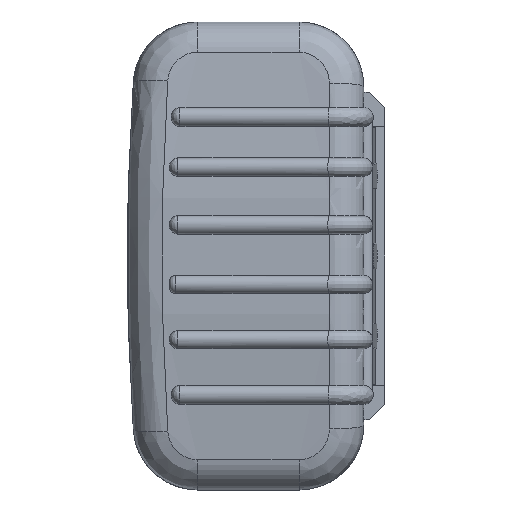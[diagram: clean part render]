
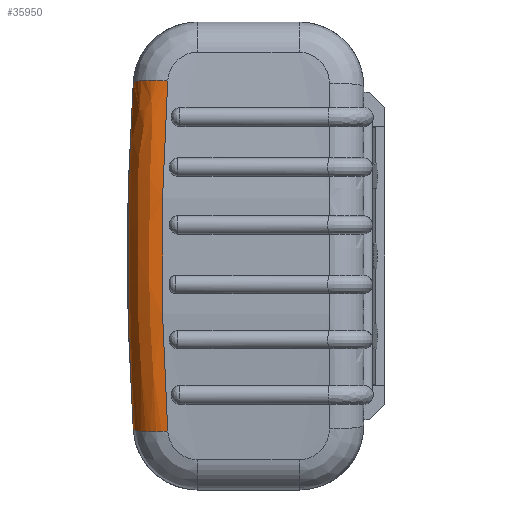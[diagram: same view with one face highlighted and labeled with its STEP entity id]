
A CAD part, left-side view. The second image highlights one B-rep face of the part: STEP entity #35950.
In plain terms, the highlighted free-form (B-spline) face has degree [3, 2] with [6, 3] control points.
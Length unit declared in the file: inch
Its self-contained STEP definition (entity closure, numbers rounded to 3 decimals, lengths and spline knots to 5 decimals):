
#247 = CARTESIAN_POINT ( 'NONE',  ( 3.28221, 2.17422, 0. ) ) ;
#1144 = CARTESIAN_POINT ( 'NONE',  ( 3.54135, 1.82418, -1.06426 ) ) ;
#3175 = CARTESIAN_POINT ( 'NONE',  ( 3.56955, 2.15656, -0.53916 ) ) ;
#3738 = CIRCLE ( 'NONE', #29962, 0.31496 ) ;
#3822 = B_SPLINE_CURVE_WITH_KNOTS ( 'NONE', 3,
 ( #3991, #25898, #247, #29608, #7671 ),
 .UNSPECIFIED., .F., .F.,
 ( 4, 1, 4 ),
 ( 0., 0.04023, 0.08047 ),
 .UNSPECIFIED. ) ;
#3991 = CARTESIAN_POINT ( 'NONE',  ( 3.17128, 2.10346, 1.584 ) ) ;
#6865 = CARTESIAN_POINT ( 'NONE',  ( 3.25459, 2.15656, 0.528 ) ) ;
#7671 = CARTESIAN_POINT ( 'NONE',  ( 3.17128, 2.10346, -1.584 ) ) ;
#7847 = ORIENTED_EDGE ( 'NONE', *, *, #23934, .F. ) ;
#10544 = VERTEX_POINT ( 'NONE', #43159 ) ;
#10554 = CARTESIAN_POINT ( 'NONE',  ( 3.56955, 1.8416, 0.53213 ) ) ;
#12248 = CARTESIAN_POINT ( 'NONE',  ( 3.54135, 1.82418, 1.06426 ) ) ;
#12941 = CARTESIAN_POINT ( 'NONE',  ( 3.17128, 2.10346, -1.584 ) ) ;
#13704 = AXIS2_PLACEMENT_3D ( 'NONE', #16033, #41592, #19704 ) ;
#14056 = CARTESIAN_POINT ( 'NONE',  ( 3.48224, 2.10124, -1.6171 ) ) ;
#14212 = CARTESIAN_POINT ( 'NONE',  ( 3.54073, 2.13823, 1.07705 ) ) ;
#16033 = CARTESIAN_POINT ( 'NONE',  ( 3.17128, 1.78921, 1.56291 ) ) ;
#17032 = ORIENTED_EDGE ( 'NONE', *, *, #17905, .F. ) ;
#17710 = CARTESIAN_POINT ( 'NONE',  ( 3.48445, 1.78921, -1.59639 ) ) ;
#17851 = CARTESIAN_POINT ( 'NONE',  ( 3.17128, 2.10346, 1.584 ) ) ;
#17905 = EDGE_CURVE ( 'NONE', #10544, #30907, #26153, .T. ) ;
#18063 = CARTESIAN_POINT ( 'NONE',  ( 3.17128, 1.78921, -1.56291 ) ) ;
#19704 = DIRECTION ( 'NONE',  ( 0.994, 0., 0.106 ) ) ;
#21415 = CARTESIAN_POINT ( 'NONE',  ( 3.54073, 2.13823, -1.07705 ) ) ;
#21563 = CARTESIAN_POINT ( 'NONE',  ( 3.48445, 1.78921, 1.59639 ) ) ;
#21771 = DIRECTION ( 'NONE',  ( 0.994, 0., -0.106 ) ) ;
#22305 = CARTESIAN_POINT ( 'NONE',  ( 3.17128, 2.10346, 1.584 ) ) ;
#23934 = EDGE_CURVE ( 'NONE', #30907, #24029, #3822, .T. ) ;
#24029 = VERTEX_POINT ( 'NONE', #12941 ) ;
#24931 = CARTESIAN_POINT ( 'NONE',  ( 3.17128, 2.10346, -1.584 ) ) ;
#25099 = CARTESIAN_POINT ( 'NONE',  ( 3.25459, 2.15656, -0.528 ) ) ;
#25898 = CARTESIAN_POINT ( 'NONE',  ( 3.22698, 2.1389, 1.056 ) ) ;
#26153 = CIRCLE ( 'NONE', #13704, 0.31496 ) ;
#28782 = CARTESIAN_POINT ( 'NONE',  ( 3.56955, 1.8416, -0.53213 ) ) ;
#29608 = CARTESIAN_POINT ( 'NONE',  ( 3.22698, 2.1389, -1.056 ) ) ;
#29962 = AXIS2_PLACEMENT_3D ( 'NONE', #18063, #43612, #21771 ) ;
#30507 = CARTESIAN_POINT ( 'NONE',  ( 3.48445, 1.78921, -1.59639 ) ) ;
#30907 = VERTEX_POINT ( 'NONE', #22305 ) ;
#31788 = ORIENTED_EDGE ( 'NONE', *, *, #35378, .T. ) ;
#32490 = CARTESIAN_POINT ( 'NONE',  ( 3.56955, 2.15656, 0.53916 ) ) ;
#32707 = EDGE_LOOP ( 'NONE', ( #31788, #7847, #17032, #37219 ) ) ;
#33782 = EDGE_CURVE ( 'NONE', #33947, #10544, #42450, .T. ) ;
#33947 = VERTEX_POINT ( 'NONE', #35083 ) ;
#34169 = CARTESIAN_POINT ( 'NONE',  ( 3.59776, 1.85903, 0. ) ) ;
#35083 = CARTESIAN_POINT ( 'NONE',  ( 3.48445, 1.78921, -1.59639 ) ) ;
#35378 = EDGE_CURVE ( 'NONE', #33947, #24029, #3738, .T. ) ;
#35950 = ADVANCED_FACE ( 'NONE', ( #36834 ), #45321, .T. ) ;
#36095 = CARTESIAN_POINT ( 'NONE',  ( 3.22698, 2.1389, 1.056 ) ) ;
#36834 = FACE_OUTER_BOUND ( 'NONE', #32707, .T. ) ;
#37219 = ORIENTED_EDGE ( 'NONE', *, *, #33782, .F. ) ;
#37762 = CARTESIAN_POINT ( 'NONE',  ( 3.48445, 1.78921, 1.59639 ) ) ;
#39774 = CARTESIAN_POINT ( 'NONE',  ( 3.54135, 1.82417, 1.06426 ) ) ;
#41592 = DIRECTION ( 'NONE',  ( -0.106, -0.067, 0.992 ) ) ;
#42450 = B_SPLINE_CURVE_WITH_KNOTS ( 'NONE', 3,
 ( #30507, #1144, #34169, #12248, #37762 ),
 .UNSPECIFIED., .F., .F.,
 ( 4, 1, 4 ),
 ( 0., 0.04055, 0.0811 ),
 .UNSPECIFIED. ) ;
#43159 = CARTESIAN_POINT ( 'NONE',  ( 3.48445, 1.78921, 1.59639 ) ) ;
#43258 = CARTESIAN_POINT ( 'NONE',  ( 3.22698, 2.1389, -1.056 ) ) ;
#43407 = CARTESIAN_POINT ( 'NONE',  ( 3.48224, 2.10124, 1.6171 ) ) ;
#43612 = DIRECTION ( 'NONE',  ( 0.106, 0.067, 0.992 ) ) ;
#45321 =( BOUNDED_SURFACE ( )  B_SPLINE_SURFACE ( 3, 2, ( 
 ( #24931, #14056, #17710 ),
 ( #43258, #21415, #46854 ),
 ( #25099, #3175, #28782 ),
 ( #6865, #32490, #10554 ),
 ( #36095, #14212, #39774 ),
 ( #17851, #43407, #21563 ) ),
 .UNSPECIFIED., .F., .F., .T. ) 
 B_SPLINE_SURFACE_WITH_KNOTS ( ( 4, 2, 4 ),
 ( 3, 3 ),
 ( 0., 0.0397, 0.0794 ),
 ( 0., 1. ),
 .UNSPECIFIED. ) 
 GEOMETRIC_REPRESENTATION_ITEM ( )  RATIONAL_B_SPLINE_SURFACE ( (
 ( 1., 0.71, 1.),
 ( 1., 0.708, 1.),
 ( 1., 0.707, 1.),
 ( 1., 0.707, 1.),
 ( 1., 0.708, 1.),
 ( 1., 0.71, 1.) ) ) 
 REPRESENTATION_ITEM ( '' )  SURFACE ( )  );
#46854 = CARTESIAN_POINT ( 'NONE',  ( 3.54135, 1.82417, -1.06426 ) ) ;
